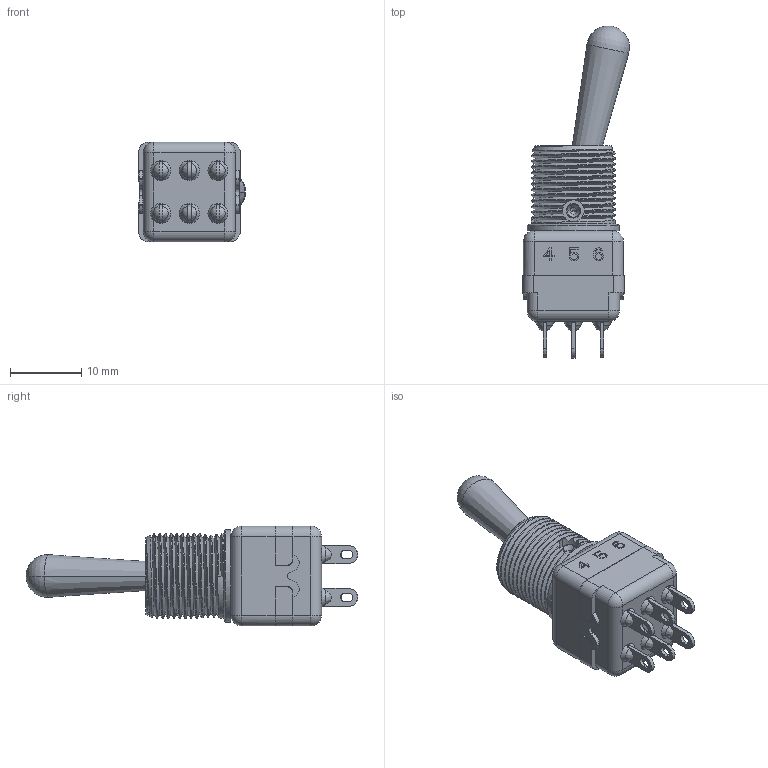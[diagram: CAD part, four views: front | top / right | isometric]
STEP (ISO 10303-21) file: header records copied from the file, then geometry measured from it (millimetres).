
FILE_DESCRIPTION((''),'2;1');
FILE_NAME('12146','2012-12-13T',('francis'),(''),'PRO/ENGINEER BY PARAMETRIC TECHNOLOGY CORPORATION, 2011370','PRO/ENGINEER BY PARAMETRIC TECHNOLOGY CORPORATION, 2011370','');
FILE_SCHEMA(('CONFIG_CONTROL_DESIGN'));
Length unit declared in the file: millimetre
Products named in the file (1): 12146
Bounding box: 14.99 x 46.49 x 14 mm (x, y, z)
Volume: 2462.3 mm3; surface area: 4696.3 mm2
Topology: 2 solids, 2 shells, 881 faces, 2546 edges, 1650 vertices
Faces by surface type: plane 588, cylinder 167, bspline 71, cone 23, sphere 18, torus 14
Entity records: 38315 total; most frequent: CARTESIAN_POINT 15611, ORIENTED_EDGE 5080, DIRECTION 4234, EDGE_CURVE 2540, VECTOR 1826, LINE 1826, VERTEX_POINT 1650, AXIS2_PLACEMENT_3D 1204
